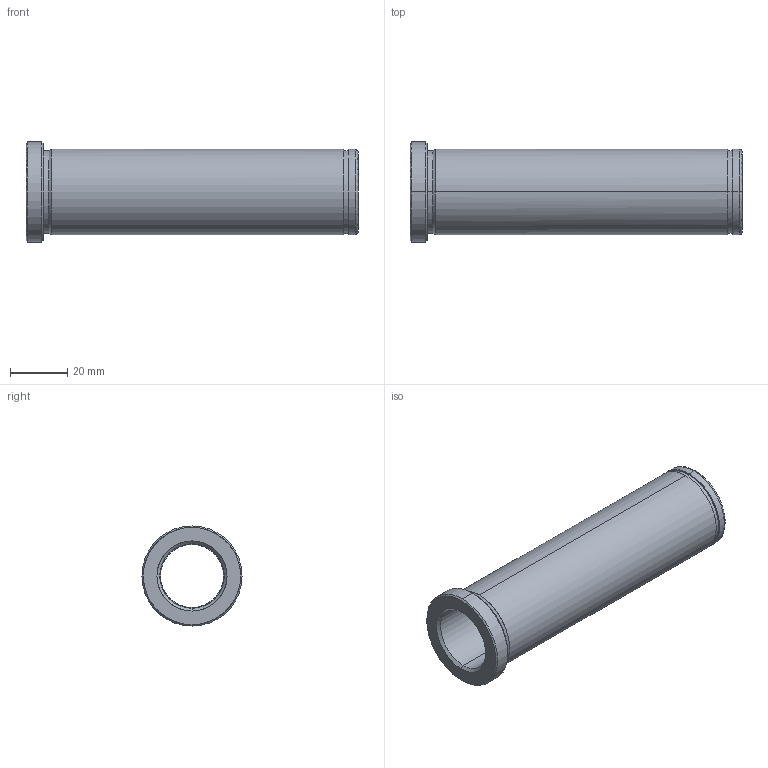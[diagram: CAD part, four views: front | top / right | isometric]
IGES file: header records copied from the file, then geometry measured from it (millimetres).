
Start section: START RECORD GO HERE.
Global section: file name: 553-22X116.igs; native system: DASSAULT SYSTEMES CATIA V5 R20 - www.3ds.com; preprocessor: CATIA Version 5 Release 20 ; author: Utente; organization: NB04-ASUS; date: 20210525.200545; units: millimetre
Bounding box: 116 x 35 x 35 mm (x, y, z)
Surface area: 20220.3 mm2 (no closed solid volume)
Topology: 0 solids, 0 shells, 32 faces, 204 edges, 204 vertices
Faces by surface type: revolution 26, plane 6
